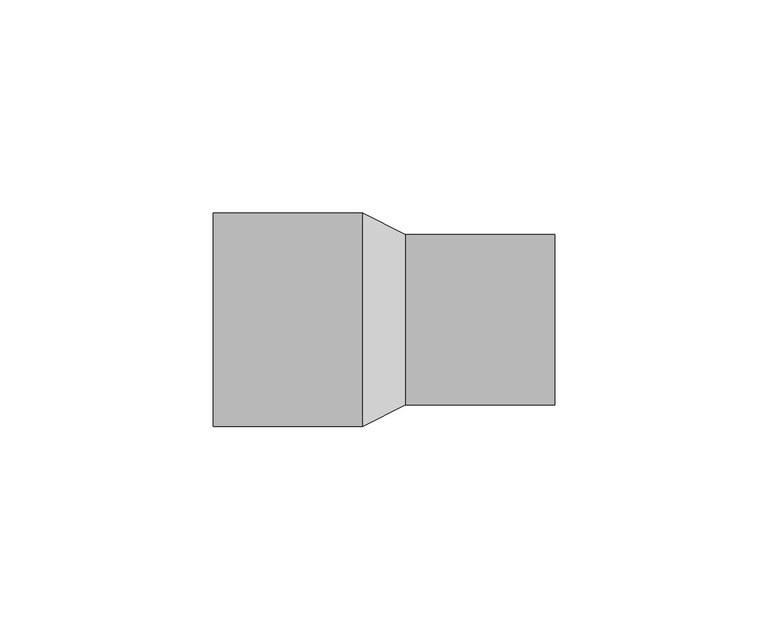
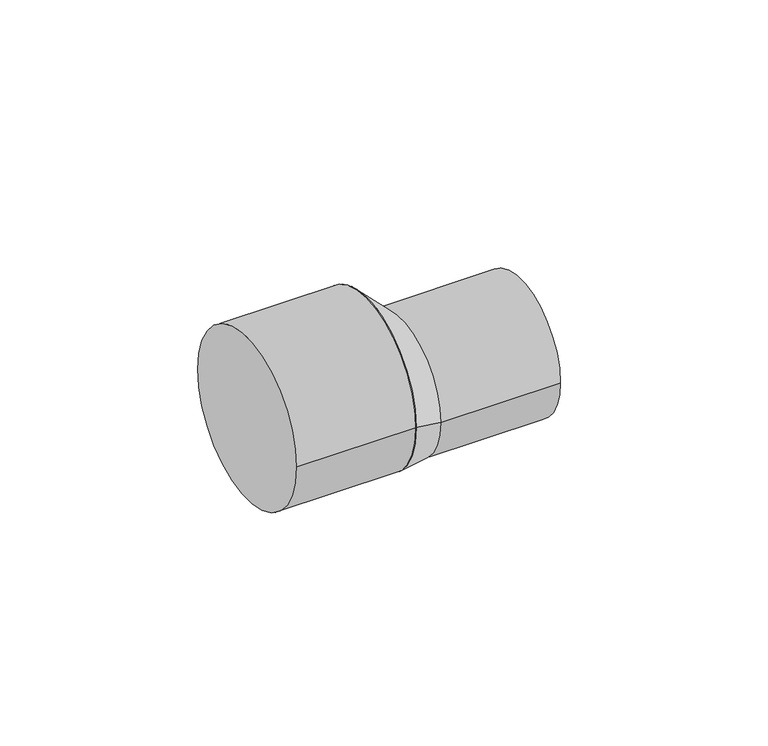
"""IFC4 building model written with IfcOpenShell, lengths in millimetres: pipe fitting geometry, Pipelife - VRD - Redukcja ekscentryczna : Pipelife - VRD - Redukcja ekscentryczna."""

from ifc_helpers import new_model, si_unit, point, frame, frame_2d, origin, origin_2d, place, context, project, spatial, circle_curve, trimmed, segment, composite_curve, outline, extrude, source, transform, mapped, element, save
from ifc_brep_helpers import plane_surface, spline_surface, advanced_brep


def pipe_fitting_4e02e438(model_context):
    return source(origin(), model_context, "Body", "SolidModel", [
        advanced_brep(
        [(5.0, -20.0, -5.0), (5.0, 20.0, -5.0), (-5.0, -25.0, 0.0), (-5.0, 25.0, 0.0)],
        [
            (0, 1, circle_curve(frame((5.0, 0.0, -5.0), z_axis=(1.0, 0.0, 0.0), x_axis=(0.0, 1.0, 0.0)), 20.0)),
            (1, 0, circle_curve(frame((5.0, 0.0, -5.0), z_axis=(1.0, 0.0, 0.0), x_axis=(0.0, 1.0, 0.0)), 20.0)),
            (2, 3, circle_curve(frame((-5.0, 0.0, 0.0), z_axis=(-1.0, 0.0, 0.0), x_axis=(0.0, 1.0, 0.0)), 25.0)),
            (3, 2, circle_curve(frame((-5.0, 0.0, 0.0), z_axis=(-1.0, 0.0, 0.0), x_axis=(0.0, 1.0, 0.0)), 25.0)),
            (3, 1),
            (0, 2),
        ],
        [
            plane_surface(frame((5.0, 0.0, -5.0), z_axis=(1.0, 0.0, 0.0), x_axis=(0.0, 0.0, -1.0))),
            plane_surface(frame((-5.0, 0.0, 0.0), z_axis=(-1.0, 0.0, 0.0), x_axis=(0.0, 0.0, -1.0))),
            spline_surface(2, 1, [[(-5.0, -25.0, 0.0), (5.0, -20.0, -5.0)], [(-5.0, -25.0, -25.0), (5.0, -20.0, -25.0)], [(-5.0, 0.0, -25.0), (5.0, 0.0, -25.0)], [(-5.0, 25.0, -25.0), (5.0, 20.0, -25.0)], [(-5.0, 25.0, 0.0), (5.0, 20.0, -5.0)]], [3, 2, 3], [2, 2], [0.0, 1.0, 2.0], [0.0, 1.0], weights=[[1.0, 1.0], [0.7071067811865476, 0.7071067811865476], [1.0, 1.0], [0.7071067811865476, 0.7071067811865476], [1.0, 1.0]]),
            spline_surface(2, 1, [[(-5.0, 25.0, 0.0), (5.0, 20.0, -5.0)], [(-5.0, 25.0, 25.0), (5.0, 20.0, 15.0)], [(-5.0, 0.0, 25.0), (5.0, 0.0, 15.0)], [(-5.0, -25.0, 25.0), (5.0, -20.0, 15.0)], [(-5.0, -25.0, 0.0), (5.0, -20.0, -5.0)]], [3, 2, 3], [2, 2], [0.0, 1.0, 2.0], [0.0, 1.0], weights=[[1.0, 1.0], [0.7071067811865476, 0.7071067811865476], [1.0, 1.0], [0.7071067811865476, 0.7071067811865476], [1.0, 1.0]]),
        ],
        [
            (0, [[1, 2]]),
            (1, [[3, 4]]),
            (2, [[-4, 5, -1, 6]]),
            (3, [[-3, -6, -2, -5]]),
        ],
    ),
        extrude(outline(composite_curve([segment(trimmed(circle_curve(frame_2d((0.0, -5.0)), 20.0), [point((-20.0, -5.0))], [point((20.0, -5.0))], False, "CARTESIAN"), True, "CONTINUOUS"), segment(trimmed(circle_curve(frame_2d((0.0, -5.0)), 20.0), [point((20.0, -5.0))], [point((-20.0, -5.0))], False, "CARTESIAN"), True, "CONTINUOUS")], self_intersect=False)), frame((5.0, 0.0, 0.0), z_axis=(1.0, 0.0, 0.0), x_axis=(0.0, 1.0, 0.0)), (0.0, 0.0, 1.0), 35.0),
        extrude(outline(composite_curve([segment(trimmed(circle_curve(origin_2d(), 25.0), [point((-25.0, 0.0))], [point((25.0, 0.0))], False, "CARTESIAN"), True, "CONTINUOUS"), segment(trimmed(circle_curve(origin_2d(), 25.0), [point((25.0, 0.0))], [point((-25.0, 0.0))], False, "CARTESIAN"), True, "CONTINUOUS")], self_intersect=False)), frame((-40.0, 0.0, 0.0), z_axis=(1.0, 0.0, 0.0), x_axis=(0.0, 1.0, 0.0)), (0.0, 0.0, 1.0), 35.0),
    ])


if __name__ == "__main__":
    model = new_model("IFC4")
    model_context = context("Model", 3, world=origin())
    ifc_project = project(units=[si_unit("LENGTHUNIT", "METRE", prefix="MILLI")], contexts=[model_context])
    site = spatial("IfcSite", under=ifc_project)
    building = spatial("IfcBuilding", under=site)
    placement = place(None, origin())
    pipe_fitting_shape = pipe_fitting_4e02e438(model_context)
    element("IfcPipeFitting", 1, ObjectType="Pipelife - VRD - Redukcja ekscentryczna : Pipelife - VRD - Redukcja ekscentryczna", at=placement, inside=building, context=model_context, shape_type="MappedRepresentation", body=[
        mapped(pipe_fitting_shape, transform((0.0, 0.0, 0.0), x_axis=(1.0, 0.0, 0.0), y_axis=(0.0, 1.0, 0.0), z_axis=(0.0, 0.0, 1.0))),
    ])
    save(model, "model.ifc")
